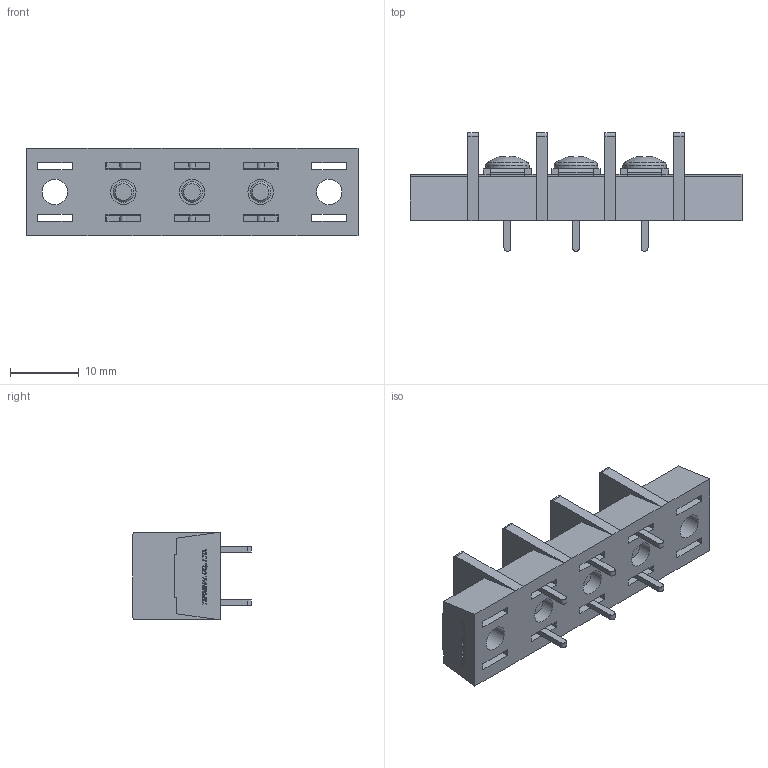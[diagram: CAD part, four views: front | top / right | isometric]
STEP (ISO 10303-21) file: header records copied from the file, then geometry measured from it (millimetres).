
FILE_DESCRIPTION(/* description */ ('Alibre Inc.'),/* implementation_level */ '2;1');
FILE_NAME(/* name */ 'export0',/* time_stamp */ '2015-10-23T18:48:18+09:00',/* author */ (''),/* organization */ (''),/* preprocessor_version */ 'ST-DEVELOPER v14',/* originating_system */ 'Alibre',/* authorisation */ '');
FILE_SCHEMA (('CONFIG_CONTROL_DESIGN'));
Length unit declared in the file: centimetre
Products named in the file (1): ID_1
Bounding box: 48.4 x 17.3 x 12.8 mm (x, y, z)
Volume: 4018.2 mm3; surface area: 4690.7 mm2
Topology: 1 solids, 52 shells, 1267 faces, 3283 edges, 2174 vertices
Faces by surface type: plane 944, bspline 260, cylinder 39, cone 15, torus 6, sphere 3
Full cylindrical faces by diameter (mm): 3 x6, 3.7 x5, 4.6 x5, 6.3 x3
Entity records: 37057 total; most frequent: CARTESIAN_POINT 9023, ORIENTED_EDGE 6500, DIRECTION 3828, EDGE_CURVE 3250, VECTOR 2521, LINE 2521, VERTEX_POINT 2169, EDGE_LOOP 1403
